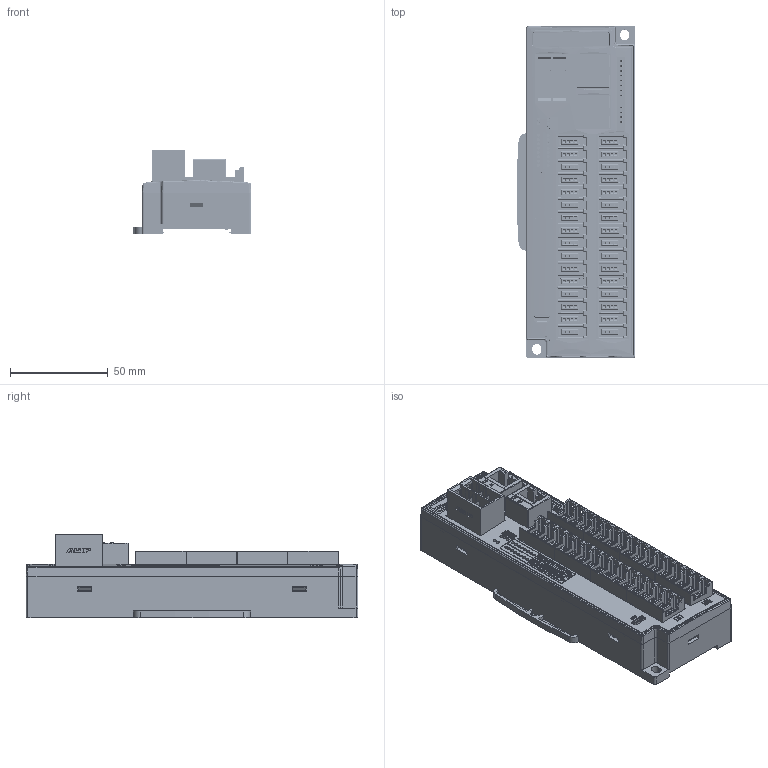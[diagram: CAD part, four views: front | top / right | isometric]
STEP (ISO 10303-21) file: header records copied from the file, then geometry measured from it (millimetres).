
FILE_DESCRIPTION((''),'2;1');
FILE_NAME('ECEPFF','2026-05-11T16:34:18',('gijyu181'),(''),'CREO PARAMETRIC BY PTC INC, 2018050','CREO PARAMETRIC BY PTC INC, 2018050','');
FILE_SCHEMA(('CONFIG_CONTROL_DESIGN','SHAPE_APPEARANCE_LAYERS_GROUPS'));
Products named in the file (1): ECEPFF
Bounding box: 60.87 x 170 x 42.6 mm (x, y, z)
Volume: 222759.4 mm3; surface area: 91338.9 mm2
Topology: 4 solids, 101 shells, 12528 faces, 35118 edges, 23440 vertices
Faces by surface type: plane 9385, extrusion 1731, cylinder 1309, cone 41, bspline 37, torus 21, sphere 4
Entity records: 506009 total; most frequent: CARTESIAN_POINT 110408, ORIENTED_EDGE 70236, DIRECTION 57092, EDGE_CURVE 35118, VECTOR 29288, LINE 27557, VERTEX_POINT 23440, AXIS2_PLACEMENT_3D 13902
